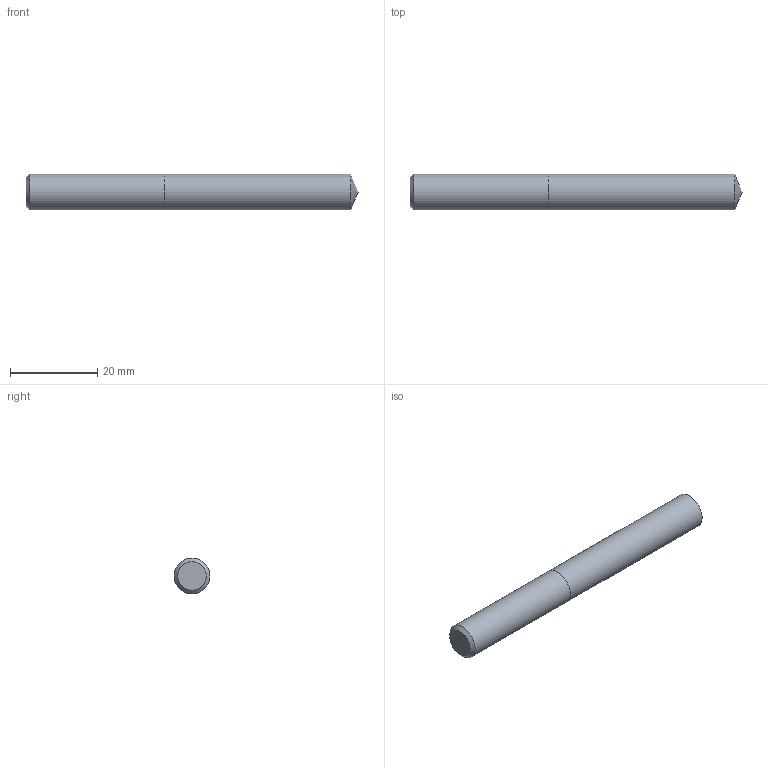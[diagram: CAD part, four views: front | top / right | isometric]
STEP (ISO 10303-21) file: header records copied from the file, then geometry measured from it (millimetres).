
FILE_DESCRIPTION (( 'STEP AP214' ), '1' );
FILE_NAME ('03-2332.STEP', '2022-06-03T06:20:06', ( 'USER' ), ( '' ), 'SwSTEP 2.0', 'SolidWorks 2018', '' );
FILE_SCHEMA (( 'AUTOMOTIVE_DESIGN' ));
Length unit declared in the file: inch
Products named in the file (1): 03-2332
Bounding box: 76.31 x 8.2 x 8.2 mm (x, y, z)
Volume: 3966.2 mm3; surface area: 2125.6 mm2
Topology: 2 solids, 2 shells, 7 faces, 11 edges, 7 vertices
Faces by surface type: plane 3, cylinder 2, cone 2
Full cylindrical faces by diameter (mm): 8.204 x2
Entity records: 214 total; most frequent: DIRECTION 26, CARTESIAN_POINT 18, AXIS2_PLACEMENT_3D 13, EDGE_LOOP 10, ORIENTED_EDGE 10, FACE_OUTER_BOUND 9, DIMENSIONAL_EXPONENTS 7, ADVANCED_FACE 7
